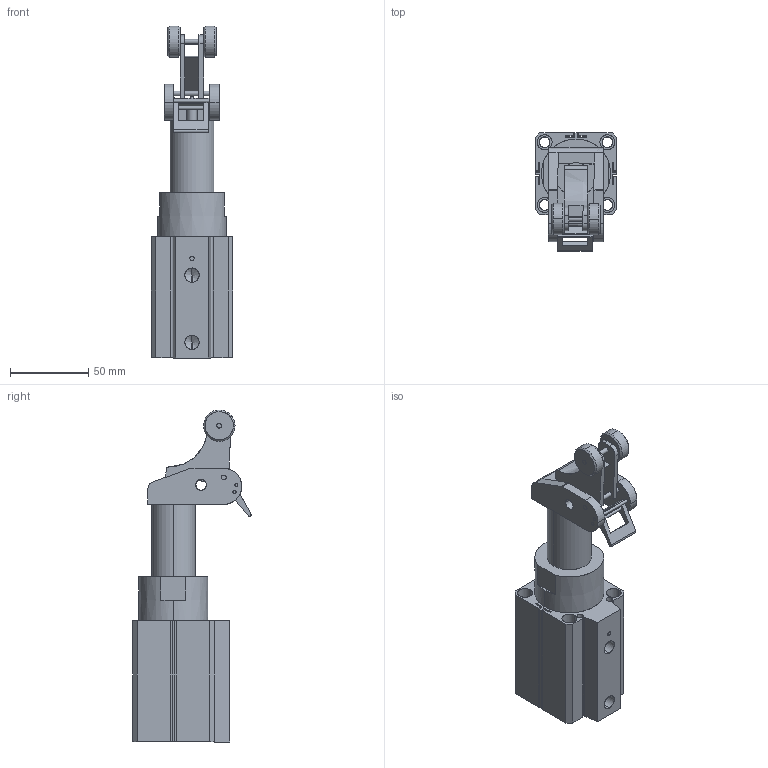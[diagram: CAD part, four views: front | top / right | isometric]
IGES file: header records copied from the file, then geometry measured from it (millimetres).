
Start section: SolidWorks IGES file using analytic representation for surfaces
Global section: file name: F:\elod\elod 40\course 25\elod40-25.IGS; native system: SolidWorks 2010; preprocessor: SolidWorks 2010; author: 1EDPI; date: 110512.102133; units: millimetre
Bounding box: 52 x 75.66 x 211.89 mm (x, y, z)
Surface area: 65589.5 mm2 (no closed solid volume)
Topology: 0 solids, 0 shells, 241 faces, 4034 edges, 4028 vertices
Faces by surface type: bspline 121, revolution 120
